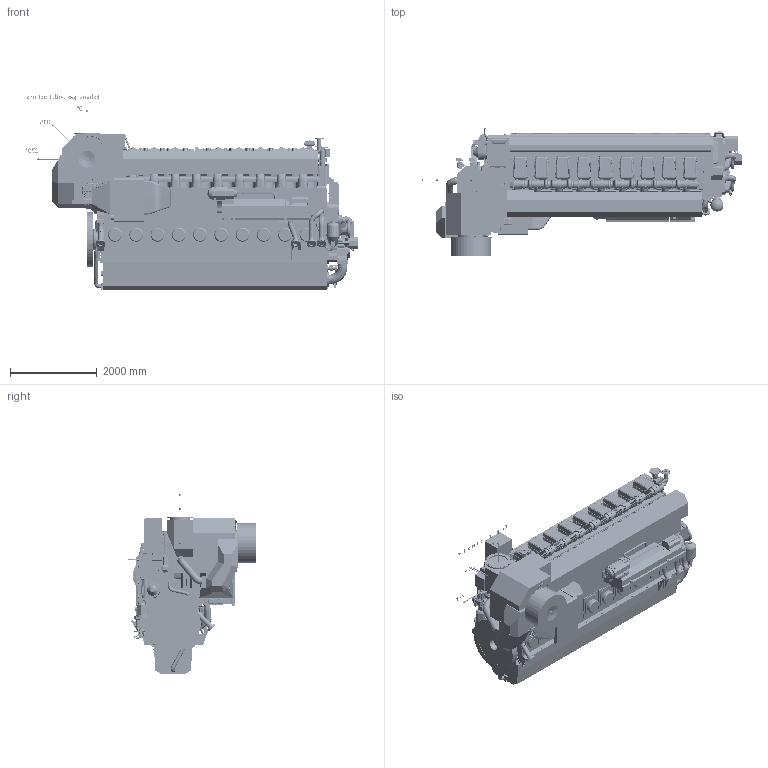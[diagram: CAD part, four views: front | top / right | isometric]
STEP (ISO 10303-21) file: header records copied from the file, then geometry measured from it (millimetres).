
FILE_DESCRIPTION(/* description */ (''),/* implementation_level */ '2;1');
FILE_NAME(/* name */ 'DAAF385158_A.stp',/* time_stamp */ '2021-12-30T14:09:45+02:00',/* author */ (''),/* organization */ (''),/* preprocessor_version */ 'ST-DEVELOPER v16.7',/* originating_system */ 'SIEMENS PLM Software NX 1915',/* authorisation */ '');
FILE_SCHEMA (('AUTOMOTIVE_DESIGN { 1 0 10303 214 3 1 1 1 }'));
Products named in the file (64): PAAF078236--_COVER; PAAF976976--_Cylinder head covers 9L; PAAF193483--_BOOSTER MOTOR; PABA279509--_Flywheel L3X; PAAF078241--_COVER; PAAF906204--_SHUT-DOWN MECHANISM; PAAF093585--_STARTING AIR PIPES; PABA065852--_Gas feed pipe from roof; PAAF243367--_GOVERNOR; PAAF093819--_WATER CONNECTION; PAAF270351--_EQUIPMENT; PAAF087122--_LEAK FUEL PIPES; PAAF078074--_TURNING DEVICE; PAAF906214--_ELECTRICAL EQUIPMENT; PAAF261809--_LUBRICATING OIL FILTER; PAAF243671--_PUMP COVER; PAAF331859--_CLEANING DEVICE; PAAF063771--_COVERS; PABA036864--_Cylinder heads multiducts cylinder liner; PAAF895907--_COVERS; PAAF078622--_LT-WATER PIPES; PAAF675626--_OIL MIST DETECTOR; PAAF078688--_PILOT FUEL LINE; PAAF078125--_A_COVER_main_fuel_pipes; PABA066964--_Double wall gas vent system; PAAF087114--_LEAK FUEL SYSTEM; PAAF087082--_A_LEAK FUEL PIPES; PABA181135--_LT-water from stand-by pump; PAAF291916--_INTERMEDIATE GEAR; PAAF271372--_MOTOR; PAAF243686--_CENTRIFUGAL FILTER; PAAF977365--_Electrical equipment for side cover; PAAF243393--_GOVERNOR; PABA073837--_WASTEGATE PIPE ABB155 IN FWE 0 AND 90 DEG; PAAF909498--_LOCAL CONTROL PANEL; PAAF243623--_FUEL PIPES; PAAF087111--_LEAK FUEL SYSTEM; PAAF064319--_COVERS; PAAF299715--_TURBOCHARGER BRACKET; PAAF063633--_ENGINE BLOCK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
Assembly tree (78 placements, depth 3):
  DAAF385158_A-Outline drawing
    PABA335656--_W9L34DFC-TCD-WET
      PAAF093447--_SEPARATOR CONNECTIONS
      PAAF090578--_LUBRICATING OIL PIPES
      PAAF087136--_LUBRICATING OIL PIPES
      PAAF087145--_OIL SUCTION PIPE
      PAAF259781--_WET SUMP
      PAAF975926--_main gas admission valve  x9
      PAAF247479--_FRAME
      PAAF975946--_gas pipe between cylinders  x8
      PAAF906213--_NITROGEN GAS PIPE
      PAAF297128--_COVERS
      PAAF415151--_TURBOCHARGER
      PAAF238216--_CRANKSHAFT
      PAAF243352--_OIL PIPE
      PAAF247485--_LUBRICATING OIL PUMP
      PAAF074388--_END COVER
      PAAF066775--_INSULATING BOX
      PAAF978290--_Covers top shields 9L
      PAAF497278--_LUBRICATING OIL PIPES
      PAAF078620--_LT-WATER PIPES
      PAAF679607--_AIR INLET BOX
      PAAF243662--_LUBE OIL MODULE
      PAAF063633--_ENGINE BLOCK
      PAAF299715--_TURBOCHARGER BRACKET
      PAAF064319--_COVERS
      PAAF087111--_LEAK FUEL SYSTEM
      PAAF243623--_FUEL PIPES
      PAAF909498--_LOCAL CONTROL PANEL
      PABA073837--_WASTEGATE PIPE ABB155 IN FWE 0 AND 90 DEG
      PAAF243393--_GOVERNOR
      PAAF977365--_Electrical equipment for side cover
      PAAF243686--_CENTRIFUGAL FILTER
      PAAF271372--_MOTOR
      PAAF291916--_INTERMEDIATE GEAR
      PABA181135--_LT-water from stand-by pump
      PAAF087082--_A_LEAK FUEL PIPES
      PAAF087114--_LEAK FUEL SYSTEM
      PABA066964--_Double wall gas vent system
      PAAF078125--_A_COVER_main_fuel_pipes
      PAAF078688--_PILOT FUEL LINE
      PAAF675626--_OIL MIST DETECTOR
      PAAF078622--_LT-WATER PIPES
      PAAF895907--_COVERS
      PABA036864--_Cylinder heads multiducts cylinder liner
      PAAF063771--_COVERS
      PAAF331859--_CLEANING DEVICE
      PAAF243671--_PUMP COVER
      PAAF261809--_LUBRICATING OIL FILTER
      PAAF906214--_ELECTRICAL EQUIPMENT
      PAAF078074--_TURNING DEVICE
      PAAF087122--_LEAK FUEL PIPES
      PAAF270351--_EQUIPMENT
      PAAF093819--_WATER CONNECTION
      PAAF243367--_GOVERNOR
      PABA065852--_Gas feed pipe from roof
      PAAF093585--_STARTING AIR PIPES
      PAAF906204--_SHUT-DOWN MECHANISM
      PAAF078241--_COVER
      PABA279509--_Flywheel L3X
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Bounding box: 7648.02 x 2958.47 x 4500.18 mm (x, y, z)
Volume: 18995728027.6 mm3; surface area: 245452750.5 mm2
Topology: 320 solids, 329 shells, 14341 faces, 35493 edges, 22727 vertices
Faces by surface type: plane 7877, cylinder 3381, bspline 1956, extrusion 549, torus 422, cone 108, sphere 43, revolution 5
Full cylindrical faces by diameter (mm): 1 x9, 3 x3, 4 x2, 6 x8, 8 x54, 9.6 x1, 10 x6, 10.164 x1, 10.227 x1, 11 x6, 11.908 x1, 12 x25, 12.095 x1, 12.3 x1, 13 x3, 13.2 x4, 13.5 x4, 14 x21, 15 x12, 15.5 x4, 15.6 x4, 15.7 x4, 16 x9, 16.2 x3, 17 x1, 18 x144, 18.5 x2, 19.869 x2, 20 x12, 21.3 x1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
Entity records: 559489 total; most frequent: CARTESIAN_POINT 249485, ORIENTED_EDGE 63994, DIRECTION 59250, EDGE_CURVE 31997, VERTEX_POINT 21150, VECTOR 20285, LINE 19736, AXIS2_PLACEMENT_3D 19480
